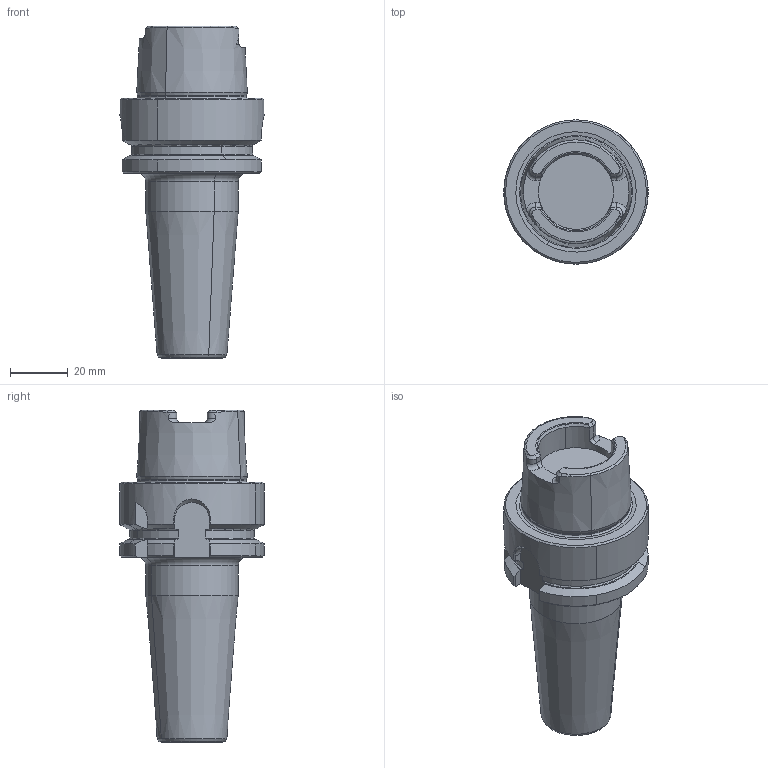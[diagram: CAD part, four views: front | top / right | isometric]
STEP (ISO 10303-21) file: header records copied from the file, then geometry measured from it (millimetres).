
FILE_DESCRIPTION(('CATIA V5 STEP'),'2;1');
FILE_NAME('I:\isr\design\admin8\users\edward_s\4590413_L.stp','2012-06-03T05:29:18+00:00',('none'),('none'),'CATIA Version 5 Release 21 SP 3 (IN-10)','CATIA V5 STEP AP214','none');
FILE_SCHEMA(('AUTOMOTIVE_DESIGN { 1 0 10303 214 1 1 1 1 }'));
Length unit declared in the file: millimetre
Products named in the file (1): 60970745_0 Holder-Tool HSK A 50 SRKIN 12X90
Bounding box: 50 x 50 x 115 mm (x, y, z)
Volume: 110154.1 mm3; surface area: 17250.7 mm2
Topology: 1 solids, 1 shells, 148 faces, 383 edges, 240 vertices
Faces by surface type: plane 51, cone 37, cylinder 32, torus 28
Entity records: 4598 total; most frequent: CARTESIAN_POINT 1408, ORIENTED_EDGE 766, DIRECTION 470, EDGE_CURVE 383, AXIS2_PLACEMENT_3D 244, VERTEX_POINT 240, CIRCLE 157, EDGE_LOOP 151
